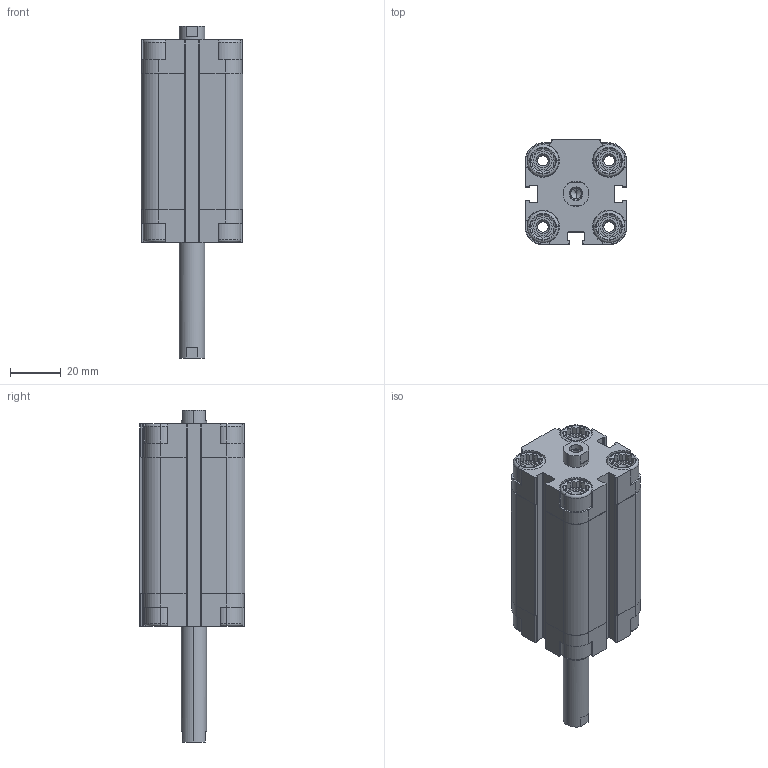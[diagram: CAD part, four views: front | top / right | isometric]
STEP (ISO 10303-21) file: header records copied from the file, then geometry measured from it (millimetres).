
FILE_DESCRIPTION (( 'STEP AP203' ), '1' );
FILE_NAME ('CDVU25-40F-P.STEP', '2020-07-24T18:09:40', ( '' ), ( '' ), 'SwSTEP 2.0', 'SolidWorks 2019', '' );
FILE_SCHEMA (( 'CONFIG_CONTROL_DESIGN' ));
Length unit declared in the file: millimetre
Products named in the file (1): CDVU25-40F-P
Bounding box: 40 x 41.5 x 130.5 mm (x, y, z)
Volume: 91485.9 mm3; surface area: 38487.6 mm2
Topology: 2 solids, 2 shells, 596 faces, 1574 edges, 1016 vertices
Faces by surface type: plane 356, cylinder 176, cone 48, torus 16
Entity records: 18577 total; most frequent: CARTESIAN_POINT 3755, ORIENTED_EDGE 3132, DIRECTION 3000, EDGE_CURVE 1566, AXIS2_PLACEMENT_3D 1029, VERTEX_POINT 1016, VECTOR 942, LINE 942
